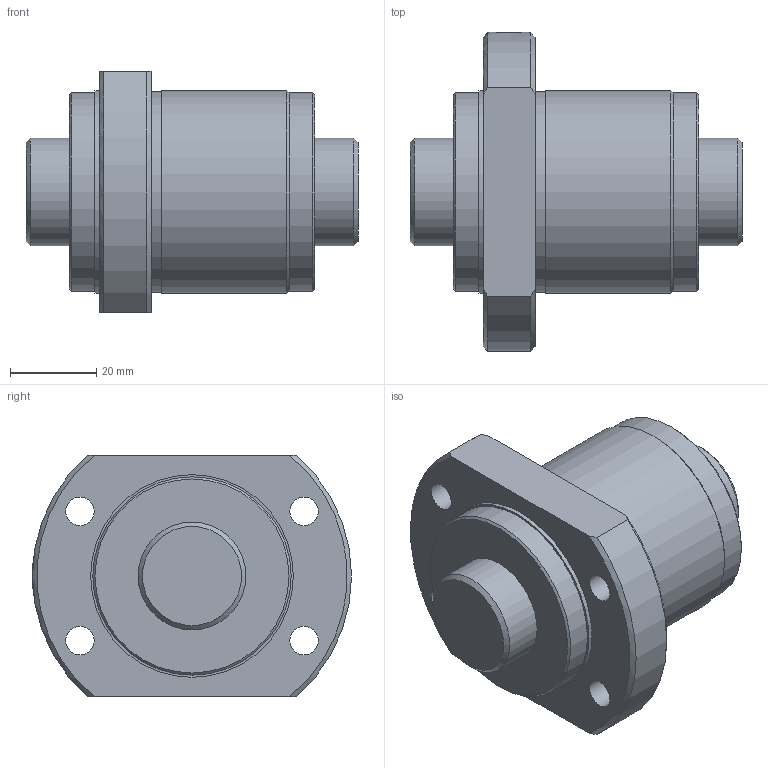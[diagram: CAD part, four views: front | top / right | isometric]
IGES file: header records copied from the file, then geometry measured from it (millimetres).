
Start section: Data from Parasolid IGES Translator 26.0.171, Copyright(c) 2006 Siemens PLM Software. All Rights Reserved.
Global section: file name: SBK2520-3.6RRG0+77LC0(0000).igs; native system: By Siemens PLM Incorporated; preprocessor: XPlus GENERIC/IGES 26.0.171; author: Noname; organization: Noname; date: 20240528.111947; units: millimetre
Bounding box: 77 x 74 x 56 mm (x, y, z)
Surface area: 27873.1 mm2 (no closed solid volume)
Topology: 0 solids, 0 shells, 35 faces, 159 edges, 132 vertices
Faces by surface type: revolution 25, extrusion 10
